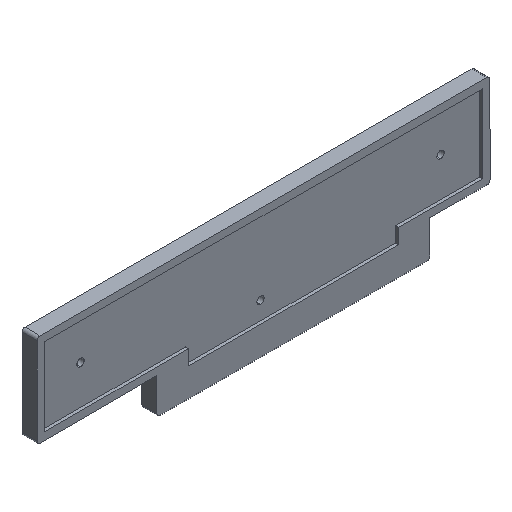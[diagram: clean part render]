
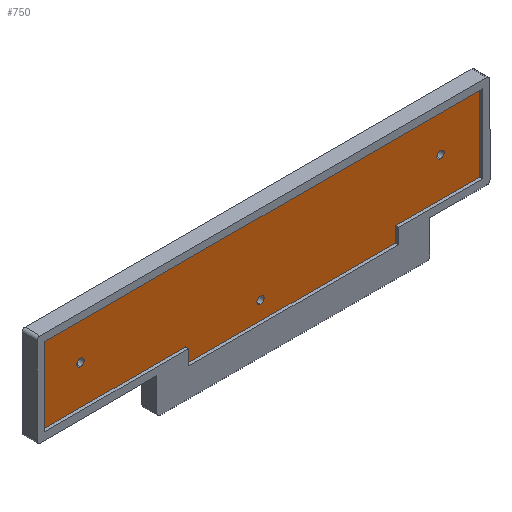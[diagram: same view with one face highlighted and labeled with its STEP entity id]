
A CAD part, isometric view. The second image highlights one B-rep face of the part: STEP entity #750.
In plain terms, the highlighted planar face has unit normal (0, -1, 0).
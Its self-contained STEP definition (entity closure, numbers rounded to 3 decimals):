
#6 = CIRCLE ( 'NONE', #120, 2.4 ) ;
#19 = ORIENTED_EDGE ( 'NONE', *, *, #488, .T. ) ;
#35 = FACE_BOUND ( 'NONE', #111, .T. ) ;
#45 = EDGE_CURVE ( 'NONE', #1000, #1004, #910, .T. ) ;
#52 = DIRECTION ( 'NONE',  ( 1., 0., 0. ) ) ;
#59 = ORIENTED_EDGE ( 'NONE', *, *, #830, .T. ) ;
#62 = VECTOR ( 'NONE', #219, 1000. ) ;
#66 = LINE ( 'NONE', #961, #861 ) ;
#83 = EDGE_CURVE ( 'NONE', #871, #465, #332, .T. ) ;
#94 = ORIENTED_EDGE ( 'NONE', *, *, #1161, .T. ) ;
#100 = CIRCLE ( 'NONE', #444, 2.4 ) ;
#103 = CIRCLE ( 'NONE', #1068, 2.4 ) ;
#111 = EDGE_LOOP ( 'NONE', ( #485, #751 ) ) ;
#120 = AXIS2_PLACEMENT_3D ( 'NONE', #891, #1072, #1077 ) ;
#127 = DIRECTION ( 'NONE',  ( 0., 0., 1. ) ) ;
#128 = VERTEX_POINT ( 'NONE', #130 ) ;
#130 = CARTESIAN_POINT ( 'NONE',  ( -124.233, 2., 54.658 ) ) ;
#138 = DIRECTION ( 'NONE',  ( 0., 0., 1. ) ) ;
#147 = CARTESIAN_POINT ( 'NONE',  ( 0., 2., 0. ) ) ;
#166 = DIRECTION ( 'NONE',  ( 0., 0., 1. ) ) ;
#174 = EDGE_LOOP ( 'NONE', ( #937, #284, #94, #59, #262, #269, #19, #911 ) ) ;
#176 = EDGE_CURVE ( 'NONE', #1004, #1000, #517, .T. ) ;
#178 = EDGE_CURVE ( 'NONE', #371, #736, #608, .T. ) ;
#179 = DIRECTION ( 'NONE',  ( 0., 1., 0. ) ) ;
#180 = CARTESIAN_POINT ( 'NONE',  ( 111.767, 2., -7.342 ) ) ;
#192 = VERTEX_POINT ( 'NONE', #704 ) ;
#219 = DIRECTION ( 'NONE',  ( 1., 0., 0. ) ) ;
#234 = FACE_OUTER_BOUND ( 'NONE', #174, .T. ) ;
#262 = ORIENTED_EDGE ( 'NONE', *, *, #1139, .T. ) ;
#269 = ORIENTED_EDGE ( 'NONE', *, *, #83, .T. ) ;
#284 = ORIENTED_EDGE ( 'NONE', *, *, #892, .T. ) ;
#312 = CARTESIAN_POINT ( 'NONE',  ( 141.767, 2., 31.058 ) ) ;
#332 = LINE ( 'NONE', #868, #913 ) ;
#371 = VERTEX_POINT ( 'NONE', #1020 ) ;
#376 = VERTEX_POINT ( 'NONE', #814 ) ;
#397 = DIRECTION ( 'NONE',  ( 0., 0., 1. ) ) ;
#402 = EDGE_CURVE ( 'NONE', #499, #614, #100, .T. ) ;
#403 = CARTESIAN_POINT ( 'NONE',  ( -28.233, 2., 2.658 ) ) ;
#404 = AXIS2_PLACEMENT_3D ( 'NONE', #492, #588, #1136 ) ;
#414 = CARTESIAN_POINT ( 'NONE',  ( 141.767, 2., 28.658 ) ) ;
#426 = ORIENTED_EDGE ( 'NONE', *, *, #45, .T. ) ;
#441 = LINE ( 'NONE', #525, #1050 ) ;
#444 = AXIS2_PLACEMENT_3D ( 'NONE', #1031, #508, #397 ) ;
#445 = VECTOR ( 'NONE', #932, 1000. ) ;
#462 = ORIENTED_EDGE ( 'NONE', *, *, #592, .T. ) ;
#465 = VERTEX_POINT ( 'NONE', #943 ) ;
#485 = ORIENTED_EDGE ( 'NONE', *, *, #672, .T. ) ;
#488 = EDGE_CURVE ( 'NONE', #465, #376, #1052, .T. ) ;
#492 = CARTESIAN_POINT ( 'NONE',  ( -98.233, 2., 28.658 ) ) ;
#493 = LINE ( 'NONE', #1128, #1166 ) ;
#499 = VERTEX_POINT ( 'NONE', #663 ) ;
#503 = EDGE_CURVE ( 'NONE', #376, #1152, #1026, .T. ) ;
#508 = DIRECTION ( 'NONE',  ( 0., 1., 0. ) ) ;
#512 = DIRECTION ( 'NONE',  ( 0., 1., 0. ) ) ;
#517 = CIRCLE ( 'NONE', #1122, 2.4 ) ;
#525 = CARTESIAN_POINT ( 'NONE',  ( 167.767, 2., 2.658 ) ) ;
#531 = ORIENTED_EDGE ( 'NONE', *, *, #402, .T. ) ;
#535 = DIRECTION ( 'NONE',  ( 0., 0., 1. ) ) ;
#542 = EDGE_LOOP ( 'NONE', ( #531, #462 ) ) ;
#570 = VECTOR ( 'NONE', #787, 1000. ) ;
#588 = DIRECTION ( 'NONE',  ( 0., 1., 0. ) ) ;
#592 = EDGE_CURVE ( 'NONE', #614, #499, #6, .T. ) ;
#595 = CARTESIAN_POINT ( 'NONE',  ( -98.233, 2., 31.058 ) ) ;
#602 = EDGE_LOOP ( 'NONE', ( #426, #642 ) ) ;
#608 = CIRCLE ( 'NONE', #776, 2.4 ) ;
#614 = VERTEX_POINT ( 'NONE', #618 ) ;
#616 = LINE ( 'NONE', #896, #570 ) ;
#618 = CARTESIAN_POINT ( 'NONE',  ( 21.767, 2., 2.257 ) ) ;
#642 = ORIENTED_EDGE ( 'NONE', *, *, #176, .T. ) ;
#655 = VERTEX_POINT ( 'NONE', #769 ) ;
#663 = CARTESIAN_POINT ( 'NONE',  ( 21.767, 2., 7.057 ) ) ;
#669 = FACE_BOUND ( 'NONE', #542, .T. ) ;
#672 = EDGE_CURVE ( 'NONE', #736, #371, #103, .T. ) ;
#676 = CARTESIAN_POINT ( 'NONE',  ( 111.767, 2., -7.342 ) ) ;
#695 = DIRECTION ( 'NONE',  ( 0., 1., 0. ) ) ;
#701 = CARTESIAN_POINT ( 'NONE',  ( 167.767, 2., 54.658 ) ) ;
#704 = CARTESIAN_POINT ( 'NONE',  ( 167.767, 2., 2.658 ) ) ;
#736 = VERTEX_POINT ( 'NONE', #312 ) ;
#740 = CARTESIAN_POINT ( 'NONE',  ( 111.767, 2., 2.658 ) ) ;
#750 = ADVANCED_FACE ( 'NONE', ( #669, #963, #35, #234 ), #1129, .F. ) ;
#751 = ORIENTED_EDGE ( 'NONE', *, *, #178, .T. ) ;
#769 = CARTESIAN_POINT ( 'NONE',  ( 111.767, 2., 2.658 ) ) ;
#776 = AXIS2_PLACEMENT_3D ( 'NONE', #881, #1169, #166 ) ;
#787 = DIRECTION ( 'NONE',  ( -1., 0., 0. ) ) ;
#798 = CARTESIAN_POINT ( 'NONE',  ( -98.233, 2., 28.658 ) ) ;
#808 = DIRECTION ( 'NONE',  ( 0., 0., 1. ) ) ;
#814 = CARTESIAN_POINT ( 'NONE',  ( -28.233, 2., -7.342 ) ) ;
#830 = EDGE_CURVE ( 'NONE', #883, #128, #616, .T. ) ;
#861 = VECTOR ( 'NONE', #1060, 1000. ) ;
#868 = CARTESIAN_POINT ( 'NONE',  ( -124.233, 2., 2.658 ) ) ;
#871 = VERTEX_POINT ( 'NONE', #1080 ) ;
#881 = CARTESIAN_POINT ( 'NONE',  ( 141.767, 2., 28.658 ) ) ;
#883 = VERTEX_POINT ( 'NONE', #701 ) ;
#891 = CARTESIAN_POINT ( 'NONE',  ( 21.767, 2., 4.657 ) ) ;
#892 = EDGE_CURVE ( 'NONE', #655, #192, #1062, .T. ) ;
#896 = CARTESIAN_POINT ( 'NONE',  ( 167.767, 2., 54.658 ) ) ;
#898 = AXIS2_PLACEMENT_3D ( 'NONE', #147, #512, #1029 ) ;
#910 = CIRCLE ( 'NONE', #404, 2.4 ) ;
#911 = ORIENTED_EDGE ( 'NONE', *, *, #503, .T. ) ;
#913 = VECTOR ( 'NONE', #52, 1000. ) ;
#932 = DIRECTION ( 'NONE',  ( 0., 0., -1. ) ) ;
#937 = ORIENTED_EDGE ( 'NONE', *, *, #1100, .T. ) ;
#943 = CARTESIAN_POINT ( 'NONE',  ( -28.233, 2., 2.658 ) ) ;
#951 = CARTESIAN_POINT ( 'NONE',  ( -98.233, 2., 26.258 ) ) ;
#961 = CARTESIAN_POINT ( 'NONE',  ( -124.233, 2., 2.658 ) ) ;
#963 = FACE_BOUND ( 'NONE', #602, .T. ) ;
#1000 = VERTEX_POINT ( 'NONE', #595 ) ;
#1004 = VERTEX_POINT ( 'NONE', #951 ) ;
#1020 = CARTESIAN_POINT ( 'NONE',  ( 141.767, 2., 26.258 ) ) ;
#1026 = LINE ( 'NONE', #676, #62 ) ;
#1029 = DIRECTION ( 'NONE',  ( 0., 0., 1. ) ) ;
#1031 = CARTESIAN_POINT ( 'NONE',  ( 21.767, 2., 4.657 ) ) ;
#1047 = VECTOR ( 'NONE', #1109, 1000. ) ;
#1050 = VECTOR ( 'NONE', #535, 1000. ) ;
#1052 = LINE ( 'NONE', #403, #445 ) ;
#1060 = DIRECTION ( 'NONE',  ( 0., 0., -1. ) ) ;
#1062 = LINE ( 'NONE', #740, #1047 ) ;
#1068 = AXIS2_PLACEMENT_3D ( 'NONE', #414, #695, #138 ) ;
#1072 = DIRECTION ( 'NONE',  ( 0., 1., 0. ) ) ;
#1077 = DIRECTION ( 'NONE',  ( 0., 0., 1. ) ) ;
#1080 = CARTESIAN_POINT ( 'NONE',  ( -124.233, 2., 2.658 ) ) ;
#1100 = EDGE_CURVE ( 'NONE', #1152, #655, #493, .T. ) ;
#1109 = DIRECTION ( 'NONE',  ( 1., 0., 0. ) ) ;
#1122 = AXIS2_PLACEMENT_3D ( 'NONE', #798, #179, #808 ) ;
#1128 = CARTESIAN_POINT ( 'NONE',  ( 111.767, 2., -7.342 ) ) ;
#1129 = PLANE ( 'NONE',  #898 ) ;
#1136 = DIRECTION ( 'NONE',  ( 0., 0., 1. ) ) ;
#1139 = EDGE_CURVE ( 'NONE', #128, #871, #66, .T. ) ;
#1152 = VERTEX_POINT ( 'NONE', #180 ) ;
#1161 = EDGE_CURVE ( 'NONE', #192, #883, #441, .T. ) ;
#1166 = VECTOR ( 'NONE', #127, 1000. ) ;
#1169 = DIRECTION ( 'NONE',  ( 0., 1., 0. ) ) ;
